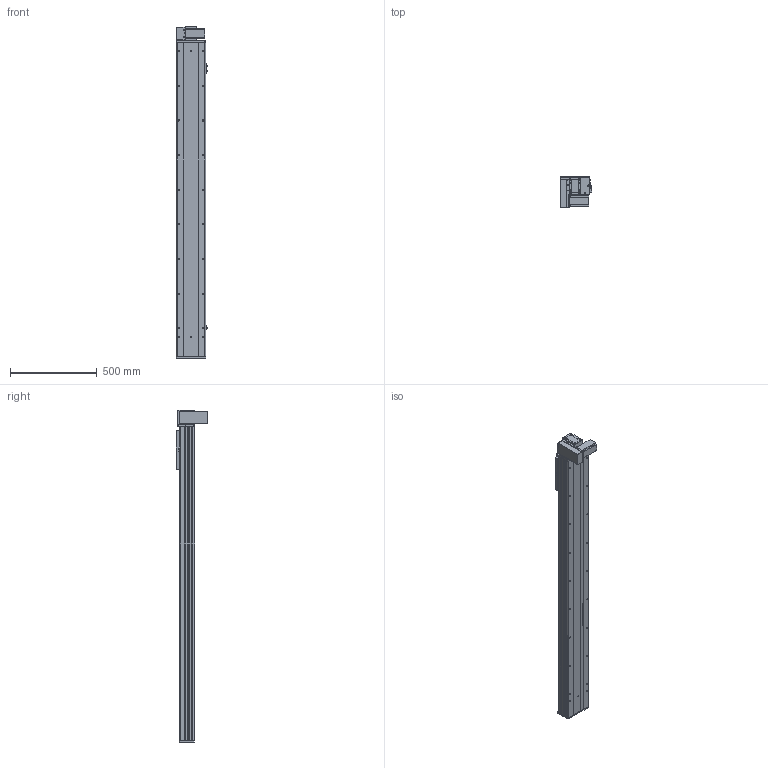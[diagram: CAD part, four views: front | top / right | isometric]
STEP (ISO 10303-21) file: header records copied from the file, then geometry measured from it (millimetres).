
FILE_DESCRIPTION (( 'STEP AP203' ), '1' );
FILE_NAME ('Y170CB-D105-S1500-BM-P400W.STEP', '2020-02-20T07:04:01', ( '微软用户' ), ( '微软中国' ), 'SwSTEP 2.0', 'SolidWorks 2017', '' );
FILE_SCHEMA (( 'CONFIG_CONTROL_DESIGN' ));
Length unit declared in the file: millimetre
Products named in the file (18): 70CB-詩湍--; san松下电机400不带刹车----; Y100-135俋离換覜ん--; 70CB-掛极-; Y170CB-陔俋离換覜結え---; --70CB --喘謫眊楊擘啣-; Y1埴倛裔; 70CB-耜裔啣-; 17B-耜蚾蟀諉啣----; 70C--詩湍揤踡え-; 00B-俋欶BM--163; 70CB--耜裔; 70B喘謫眊----; 70C-雄赽釱-奻-; B-源倛裔啣; Y170CB-D105-S1500-BM-P400W; 0C--雄赽釱俋欶-170; 0B-萇儂楊擘啣
Assembly tree (21 placements, depth 2):
  Y170CB-D105-S1500-BM-P400W
    B-源倛裔啣
    0B-萇儂楊擘啣
    san松下电机400不带刹车----
    70CB-掛极-
    --70CB --喘謫眊楊擘啣-
    70CB-耜裔啣-  x2
    70C--詩湍揤踡え-  x2
    70CB--耜裔
    70C-雄赽釱-奻-
    0C--雄赽釱俋欶-170
    70CB-詩湍--
    Y100-135俋离換覜ん--  x3
    Y170CB-陔俋离換覜結え---
    Y1埴倛裔
    17B-耜蚾蟀諉啣----
    00B-俋欶BM--163
    70B喘謫眊----
Bounding box: 183.5 x 184 x 1916 mm (x, y, z)
Volume: 8506393.2 mm3; surface area: 3048895.6 mm2
Topology: 21 solids, 21 shells, 1031 faces, 2765 edges, 1834 vertices
Faces by surface type: cylinder 545, plane 462, cone 24
Entity records: 32912 total; most frequent: CARTESIAN_POINT 6036, DIRECTION 5354, ORIENTED_EDGE 5012, EDGE_CURVE 2506, AXIS2_PLACEMENT_3D 1968, VERTEX_POINT 1664, VECTOR 1418, LINE 1418
